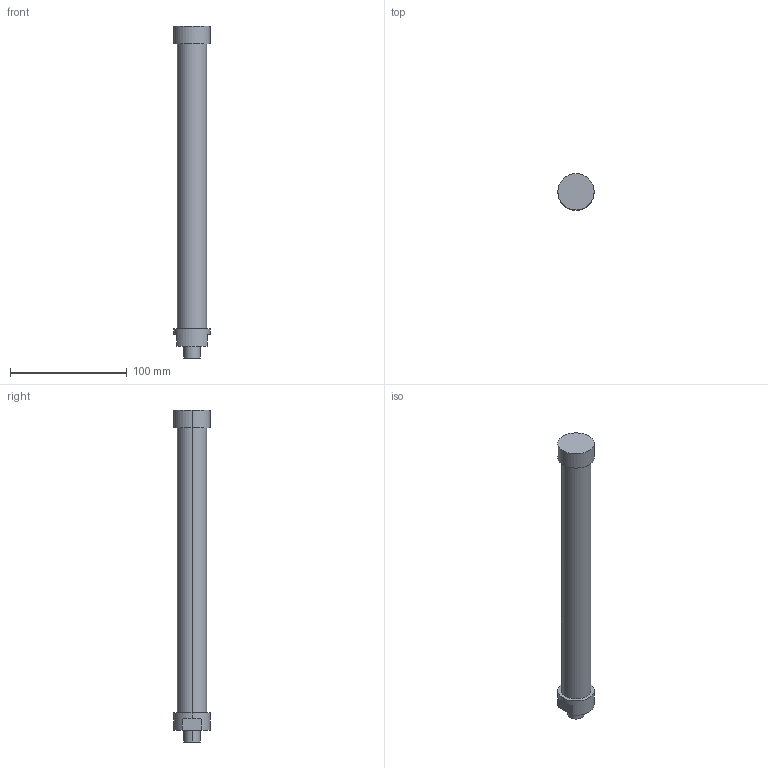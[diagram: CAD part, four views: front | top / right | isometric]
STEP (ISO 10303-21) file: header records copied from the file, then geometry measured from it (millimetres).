
FILE_DESCRIPTION(('STEP AP214'),'1');
FILE_NAME('C:/Users/Autocad/Desktop/L284-C30S1-FN.stp','2014-02-10T10:50:15',(' '),(' '),'Spatial InterOp 3D',' ',' ');
FILE_SCHEMA(('automotive_design'));
Length unit declared in the file: metre
Products named in the file (2): 1; 2
Bounding box: 31 x 31 x 284 mm (x, y, z)
Volume: 142987.3 mm3; surface area: 25130.6 mm2
Topology: 1 solids, 4 shells, 23 faces, 54 edges, 40 vertices
Faces by surface type: cylinder 12, plane 11
Entity records: 916 total; most frequent: DIRECTION 136, CARTESIAN_POINT 119, ORIENTED_EDGE 96, AXIS2_PLACEMENT_3D 57, EDGE_CURVE 54, VERTEX_POINT 40, CIRCLE 32, EDGE_LOOP 28
